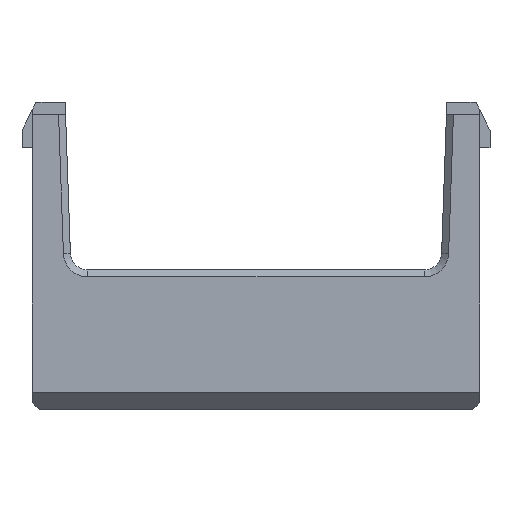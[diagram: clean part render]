
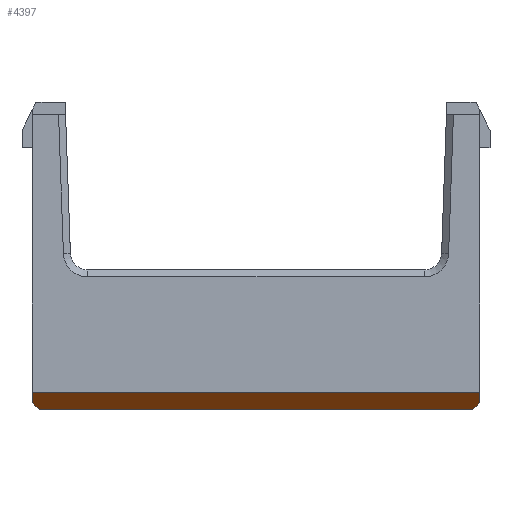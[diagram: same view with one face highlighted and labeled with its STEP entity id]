
A CAD part, front view. The second image highlights one B-rep face of the part: STEP entity #4397.
In plain terms, the highlighted planar face has unit normal (0, -0.707, -0.707).
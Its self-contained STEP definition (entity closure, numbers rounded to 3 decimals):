
#855 = PLANE('',#856);
#856 = AXIS2_PLACEMENT_3D('',#857,#858,#859);
#857 = CARTESIAN_POINT('',(-20.95,37.5,167.8));
#858 = DIRECTION('',(-1.,0.,0.));
#859 = DIRECTION('',(0.,1.,0.));
#1415 = PLANE('',#1416);
#1416 = AXIS2_PLACEMENT_3D('',#1417,#1418,#1419);
#1417 = CARTESIAN_POINT('',(-8.15,42.25,167.8));
#1418 = DIRECTION('',(1.,0.,0.));
#1419 = DIRECTION('',(0.,-1.,0.));
#1683 = VERTEX_POINT('',#1684);
#1684 = CARTESIAN_POINT('',(-8.15,13.75,159.5));
#1698 = PLANE('',#1699);
#1699 = AXIS2_PLACEMENT_3D('',#1700,#1701,#1702);
#1700 = CARTESIAN_POINT('',(-20.95,13.75,167.8));
#1701 = DIRECTION('',(0.,1.,0.));
#1702 = DIRECTION('',(1.,0.,0.));
#1710 = EDGE_CURVE('',#1711,#1683,#1713,.T.);
#1711 = VERTEX_POINT('',#1712);
#1712 = CARTESIAN_POINT('',(-8.15,14.05,159.2));
#1713 = SURFACE_CURVE('',#1714,(#1718,#1725),.PCURVE_S1.);
#1714 = LINE('',#1715,#1716);
#1715 = CARTESIAN_POINT('',(-8.15,14.,159.25));
#1716 = VECTOR('',#1717,1.);
#1717 = DIRECTION('',(0.,-0.707,0.707)
  );
#1718 = PCURVE('',#1415,#1719);
#1719 = DEFINITIONAL_REPRESENTATION('',(#1720),#1724);
#1720 = LINE('',#1721,#1722);
#1721 = CARTESIAN_POINT('',(28.25,8.55));
#1722 = VECTOR('',#1723,1.);
#1723 = DIRECTION('',(0.707,-0.707));
#1724 = ( GEOMETRIC_REPRESENTATION_CONTEXT(2) 
PARAMETRIC_REPRESENTATION_CONTEXT() REPRESENTATION_CONTEXT('2D SPACE',''
  ) );
#1725 = PCURVE('',#1726,#1731);
#1726 = PLANE('',#1727);
#1727 = AXIS2_PLACEMENT_3D('',#1728,#1729,#1730);
#1728 = CARTESIAN_POINT('',(-14.55,14.,159.25));
#1729 = DIRECTION('',(0.,-0.707,-0.707
    ));
#1730 = DIRECTION('',(0.,-0.707,0.707)
  );
#1731 = DEFINITIONAL_REPRESENTATION('',(#1732),#1736);
#1732 = LINE('',#1733,#1734);
#1733 = CARTESIAN_POINT('',(0.,-6.4));
#1734 = VECTOR('',#1735,1.);
#1735 = DIRECTION('',(1.,0.));
#1736 = ( GEOMETRIC_REPRESENTATION_CONTEXT(2) 
PARAMETRIC_REPRESENTATION_CONTEXT() REPRESENTATION_CONTEXT('2D SPACE',''
  ) );
#1754 = PLANE('',#1755);
#1755 = AXIS2_PLACEMENT_3D('',#1756,#1757,#1758);
#1756 = CARTESIAN_POINT('',(-8.25,18.248,159.1));
#1757 = DIRECTION('',(0.707,0.,-0.707)
  );
#1758 = DIRECTION('',(-0.707,0.,
    -0.707));
#2611 = VERTEX_POINT('',#2612);
#2612 = CARTESIAN_POINT('',(-20.95,13.75,159.5));
#2633 = EDGE_CURVE('',#1683,#2611,#2634,.T.);
#2634 = SURFACE_CURVE('',#2635,(#2639,#2646),.PCURVE_S1.);
#2635 = LINE('',#2636,#2637);
#2636 = CARTESIAN_POINT('',(-14.55,13.75,159.5));
#2637 = VECTOR('',#2638,1.);
#2638 = DIRECTION('',(-1.,0.,0.));
#2639 = PCURVE('',#1698,#2640);
#2640 = DEFINITIONAL_REPRESENTATION('',(#2641),#2645);
#2641 = LINE('',#2642,#2643);
#2642 = CARTESIAN_POINT('',(6.4,8.3));
#2643 = VECTOR('',#2644,1.);
#2644 = DIRECTION('',(-1.,-0.));
#2645 = ( GEOMETRIC_REPRESENTATION_CONTEXT(2) 
PARAMETRIC_REPRESENTATION_CONTEXT() REPRESENTATION_CONTEXT('2D SPACE',''
  ) );
#2646 = PCURVE('',#1726,#2647);
#2647 = DEFINITIONAL_REPRESENTATION('',(#2648),#2652);
#2648 = LINE('',#2649,#2650);
#2649 = CARTESIAN_POINT('',(0.354,0.));
#2650 = VECTOR('',#2651,1.);
#2651 = DIRECTION('',(0.,1.));
#2652 = ( GEOMETRIC_REPRESENTATION_CONTEXT(2) 
PARAMETRIC_REPRESENTATION_CONTEXT() REPRESENTATION_CONTEXT('2D SPACE',''
  ) );
#3006 = VERTEX_POINT('',#3007);
#3007 = CARTESIAN_POINT('',(-20.95,14.05,159.2));
#3021 = PLANE('',#3022);
#3022 = AXIS2_PLACEMENT_3D('',#3023,#3024,#3025);
#3023 = CARTESIAN_POINT('',(-20.85,16.375,159.1));
#3024 = DIRECTION('',(-0.707,0.,
    -0.707));
#3025 = DIRECTION('',(0.707,0.,-0.707)
  );
#3033 = EDGE_CURVE('',#3006,#2611,#3034,.T.);
#3034 = SURFACE_CURVE('',#3035,(#3039,#3046),.PCURVE_S1.);
#3035 = LINE('',#3036,#3037);
#3036 = CARTESIAN_POINT('',(-20.95,14.,159.25));
#3037 = VECTOR('',#3038,1.);
#3038 = DIRECTION('',(0.,-0.707,0.707)
  );
#3039 = PCURVE('',#855,#3040);
#3040 = DEFINITIONAL_REPRESENTATION('',(#3041),#3045);
#3041 = LINE('',#3042,#3043);
#3042 = CARTESIAN_POINT('',(-23.5,8.55));
#3043 = VECTOR('',#3044,1.);
#3044 = DIRECTION('',(-0.707,-0.707));
#3045 = ( GEOMETRIC_REPRESENTATION_CONTEXT(2) 
PARAMETRIC_REPRESENTATION_CONTEXT() REPRESENTATION_CONTEXT('2D SPACE',''
  ) );
#3046 = PCURVE('',#1726,#3047);
#3047 = DEFINITIONAL_REPRESENTATION('',(#3048),#3052);
#3048 = LINE('',#3049,#3050);
#3049 = CARTESIAN_POINT('',(0.,6.4));
#3050 = VECTOR('',#3051,1.);
#3051 = DIRECTION('',(1.,0.));
#3052 = ( GEOMETRIC_REPRESENTATION_CONTEXT(2) 
PARAMETRIC_REPRESENTATION_CONTEXT() REPRESENTATION_CONTEXT('2D SPACE',''
  ) );
#4397 = ADVANCED_FACE('',(#4398),#1726,.T.);
#4398 = FACE_BOUND('',#4399,.T.);
#4399 = EDGE_LOOP('',(#4400,#4401,#4402,#4403,#4426,#4454));
#4400 = ORIENTED_EDGE('',*,*,#1710,.T.);
#4401 = ORIENTED_EDGE('',*,*,#2633,.T.);
#4402 = ORIENTED_EDGE('',*,*,#3033,.F.);
#4403 = ORIENTED_EDGE('',*,*,#4404,.T.);
#4404 = EDGE_CURVE('',#3006,#4405,#4407,.T.);
#4405 = VERTEX_POINT('',#4406);
#4406 = CARTESIAN_POINT('',(-20.75,14.25,159.));
#4407 = SURFACE_CURVE('',#4408,(#4412,#4419),.PCURVE_S1.);
#4408 = LINE('',#4409,#4410);
#4409 = CARTESIAN_POINT('',(-20.95,14.05,159.2));
#4410 = VECTOR('',#4411,1.);
#4411 = DIRECTION('',(0.577,0.577,-0.577));
#4412 = PCURVE('',#1726,#4413);
#4413 = DEFINITIONAL_REPRESENTATION('',(#4414),#4418);
#4414 = LINE('',#4415,#4416);
#4415 = CARTESIAN_POINT('',(-0.071,6.4));
#4416 = VECTOR('',#4417,1.);
#4417 = DIRECTION('',(-0.816,-0.577));
#4418 = ( GEOMETRIC_REPRESENTATION_CONTEXT(2) 
PARAMETRIC_REPRESENTATION_CONTEXT() REPRESENTATION_CONTEXT('2D SPACE',''
  ) );
#4419 = PCURVE('',#3021,#4420);
#4420 = DEFINITIONAL_REPRESENTATION('',(#4421),#4425);
#4421 = LINE('',#4422,#4423);
#4422 = CARTESIAN_POINT('',(-0.141,2.325));
#4423 = VECTOR('',#4424,1.);
#4424 = DIRECTION('',(0.816,-0.577));
#4425 = ( GEOMETRIC_REPRESENTATION_CONTEXT(2) 
PARAMETRIC_REPRESENTATION_CONTEXT() REPRESENTATION_CONTEXT('2D SPACE',''
  ) );
#4426 = ORIENTED_EDGE('',*,*,#4427,.T.);
#4427 = EDGE_CURVE('',#4405,#4428,#4430,.T.);
#4428 = VERTEX_POINT('',#4429);
#4429 = CARTESIAN_POINT('',(-8.35,14.25,159.));
#4430 = SURFACE_CURVE('',#4431,(#4435,#4442),.PCURVE_S1.);
#4431 = LINE('',#4432,#4433);
#4432 = CARTESIAN_POINT('',(-0.05,14.25,159.));
#4433 = VECTOR('',#4434,1.);
#4434 = DIRECTION('',(1.,0.,0.));
#4435 = PCURVE('',#1726,#4436);
#4436 = DEFINITIONAL_REPRESENTATION('',(#4437),#4441);
#4437 = LINE('',#4438,#4439);
#4438 = CARTESIAN_POINT('',(-0.354,-14.5));
#4439 = VECTOR('',#4440,1.);
#4440 = DIRECTION('',(0.,-1.));
#4441 = ( GEOMETRIC_REPRESENTATION_CONTEXT(2) 
PARAMETRIC_REPRESENTATION_CONTEXT() REPRESENTATION_CONTEXT('2D SPACE',''
  ) );
#4442 = PCURVE('',#4443,#4448);
#4443 = PLANE('',#4444);
#4444 = AXIS2_PLACEMENT_3D('',#4445,#4446,#4447);
#4445 = CARTESIAN_POINT('',(-0.05,28.,159.));
#4446 = DIRECTION('',(0.,0.,-1.));
#4447 = DIRECTION('',(0.,1.,0.));
#4448 = DEFINITIONAL_REPRESENTATION('',(#4449),#4453);
#4449 = LINE('',#4450,#4451);
#4450 = CARTESIAN_POINT('',(-13.75,0.));
#4451 = VECTOR('',#4452,1.);
#4452 = DIRECTION('',(0.,1.));
#4453 = ( GEOMETRIC_REPRESENTATION_CONTEXT(2) 
PARAMETRIC_REPRESENTATION_CONTEXT() REPRESENTATION_CONTEXT('2D SPACE',''
  ) );
#4454 = ORIENTED_EDGE('',*,*,#4455,.T.);
#4455 = EDGE_CURVE('',#4428,#1711,#4456,.T.);
#4456 = SURFACE_CURVE('',#4457,(#4461,#4468),.PCURVE_S1.);
#4457 = LINE('',#4458,#4459);
#4458 = CARTESIAN_POINT('',(-8.35,14.25,159.));
#4459 = VECTOR('',#4460,1.);
#4460 = DIRECTION('',(0.577,-0.577,0.577));
#4461 = PCURVE('',#1726,#4462);
#4462 = DEFINITIONAL_REPRESENTATION('',(#4463),#4467);
#4463 = LINE('',#4464,#4465);
#4464 = CARTESIAN_POINT('',(-0.354,-6.2));
#4465 = VECTOR('',#4466,1.);
#4466 = DIRECTION('',(0.816,-0.577));
#4467 = ( GEOMETRIC_REPRESENTATION_CONTEXT(2) 
PARAMETRIC_REPRESENTATION_CONTEXT() REPRESENTATION_CONTEXT('2D SPACE',''
  ) );
#4468 = PCURVE('',#1754,#4469);
#4469 = DEFINITIONAL_REPRESENTATION('',(#4470),#4474);
#4470 = LINE('',#4471,#4472);
#4471 = CARTESIAN_POINT('',(0.141,-3.998));
#4472 = VECTOR('',#4473,1.);
#4473 = DIRECTION('',(-0.816,-0.577));
#4474 = ( GEOMETRIC_REPRESENTATION_CONTEXT(2) 
PARAMETRIC_REPRESENTATION_CONTEXT() REPRESENTATION_CONTEXT('2D SPACE',''
  ) );
